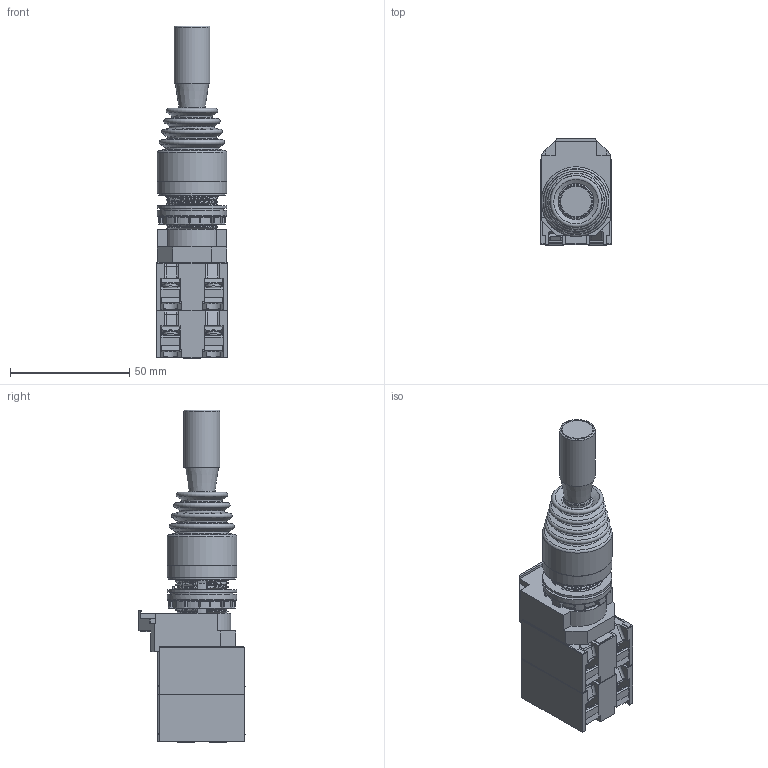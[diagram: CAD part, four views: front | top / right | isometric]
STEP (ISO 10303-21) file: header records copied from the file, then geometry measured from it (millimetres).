
FILE_DESCRIPTION(('Manipuladora s/ Retorno Redondo 22'),'2;1');
FILE_NAME('E:\WorkFolder\Bibl\3DWeb\kp_c2_c2m$$_step.stp','2023-02-08T09:31:23',('DIE'),('KAP Componentes Eletricos Ltda.'),'Autodesk Inventor 2011','Autodesk Inventor 2011','Direitos reservados. Proibido reproducao, cedencia ou revelacao de conteudo a terceiros, salvo com autorizacao.');
FILE_SCHEMA(('AUTOMOTIVE_DESIGN { 1 0 10303 214 1 1 1 1 }'));
Length unit declared in the file: millimetre
Products named in the file (1): C2M$$_3D_02
Bounding box: 30 x 44.5 x 139 mm (x, y, z)
Volume: 78541.9 mm3; surface area: 28613.8 mm2
Topology: 1 solids, 6 shells, 3628 faces, 9999 edges, 6461 vertices
Faces by surface type: plane 2297, bspline 698, cylinder 376, torus 111, cone 74, sphere 72
Full cylindrical faces by diameter (mm): 2.85 x1, 3.5 x3, 3.8 x2, 5.2 x2, 6 x5, 11.548 x1, 13.2 x1, 13.5 x1, 15 x1, 18 x1, 20 x1, 20.2 x1, 22 x1, 22.4 x1, 22.491 x3, 26 x1, 28 x1, 29 x3, 29.2 x1
Entity records: 135422 total; most frequent: CARTESIAN_POINT 44249, ORIENTED_EDGE 19640, DIRECTION 15601, EDGE_CURVE 9820, VECTOR 6681, LINE 6681, VERTEX_POINT 6431, AXIS2_PLACEMENT_3D 4460
